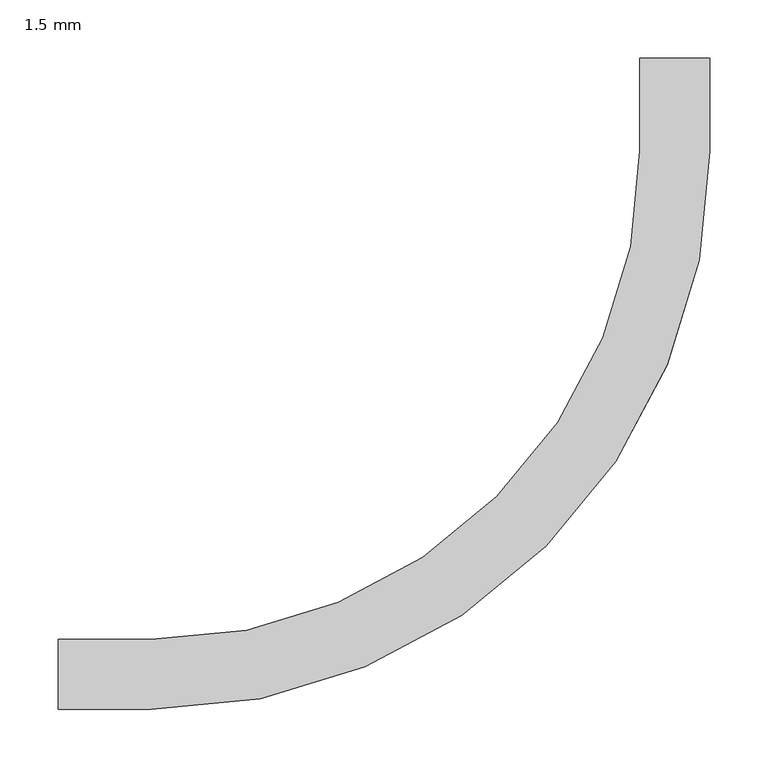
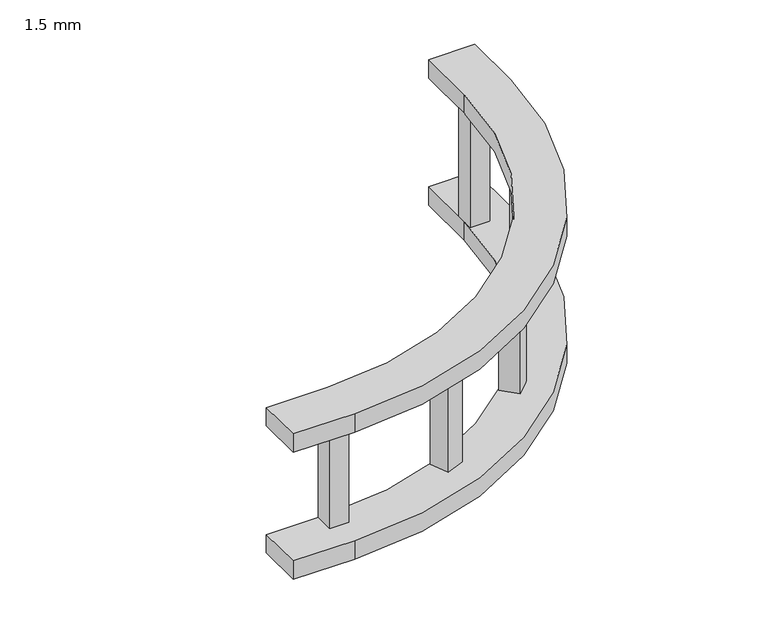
"""IFC4 building model written with IfcOpenShell, lengths in millimetres: cable carrier fitting geometry, BAKS_Łuk_pionowy_drabiny_zew E90 : 1.5 mm."""

from ifc_helpers import new_model, si_unit, point, frame, frame_2d, origin, place, context, project, spatial, polyline, circle_curve, trimmed, segment, composite_curve, outline, extrude, source, transform, mapped, element, save


def cable_carrier_fitting_1_5_mm_cc8ef015(model_context):
    return source(origin(), model_context, "Body", "SweptSolid", [
        extrude(outline(polyline([(-57.1105168, 301.0062285), (-33.6439766, 291.2860693), (-43.3641358, 267.8195292), (-66.8306759, 277.5396883), (-57.1105168, 301.0062285)])), frame((0.0, 0.0, -74.6), z_axis=(0.0, 0.0, 1.0), x_axis=(1.0, 0.0, 0.0)), (0.0, 0.0, 1.0), 149.2),
        extrude(outline(polyline([(-277.5396883, 66.8306759), (-267.8195292, 43.3641358), (-291.2860693, 33.6439766), (-301.0062285, 57.1105168), (-277.5396883, 66.8306759)])), frame((0.0, 0.0, -74.6), z_axis=(0.0, 0.0, 1.0), x_axis=(1.0, 0.0, 0.0)), (0.0, 0.0, 1.0), 149.2),
        extrude(outline(polyline([(-30.0, 462.7), (-4.6, 462.7), (-4.6, 437.3), (-30.0, 437.3), (-30.0, 462.7)])), frame((0.0, 0.0, -74.6), z_axis=(0.0, 0.0, 1.0), x_axis=(1.0, 0.0, 0.0)), (0.0, 0.0, 1.0), 149.2),
        extrude(outline(polyline([(-144.0348958, 161.995408), (-126.0743835, 144.0348958), (-144.0348958, 126.0743835), (-161.995408, 144.0348958), (-144.0348958, 161.995408)])), frame((0.0, 0.0, -74.6), z_axis=(0.0, 0.0, 1.0), x_axis=(1.0, 0.0, 0.0)), (0.0, 0.0, 1.0), 149.2),
        extrude(outline(polyline([(-462.7, 4.6), (-462.7, 30.0), (-437.3, 30.0), (-437.3, 4.6), (-462.7, 4.6)])), frame((0.0, 0.0, -74.6), z_axis=(0.0, 0.0, 1.0), x_axis=(1.0, 0.0, 0.0)), (0.0, 0.0, 1.0), 149.2),
        extrude(outline(composite_curve([segment(polyline([(-530.0, -30.0), (-530.0, 30.0), (-450.0, 30.0)]), True, "CONTINUOUS"), segment(trimmed(circle_curve(frame_2d((-450.0, 450.0)), 420.0), [point((-450.0, 30.0))], [point((-30.0, 450.0))], True, "CARTESIAN"), True, "CONTINUOUS"), segment(polyline([(-30.0, 450.0), (-30.0, 530.0), (30.0, 530.0), (30.0, 450.0)]), True, "CONTINUOUS"), segment(trimmed(circle_curve(frame_2d((-450.0, 450.0)), 480.0), [point((30.0, 450.0))], [point((-450.0, -30.0))], False, "CARTESIAN"), True, "CONTINUOUS"), segment(polyline([(-450.0, -30.0), (-530.0, -30.0)]), True, "CONTINUOUS")], self_intersect=False)), frame((0.0, 0.0, 74.6), z_axis=(0.0, 0.0, 1.0), x_axis=(1.0, 0.0, 0.0)), (0.0, 0.0, 1.0), 25.4),
        extrude(outline(composite_curve([segment(polyline([(-530.0, -30.0), (-530.0, 30.0), (-450.0, 30.0)]), True, "CONTINUOUS"), segment(trimmed(circle_curve(frame_2d((-450.0, 450.0)), 420.0), [point((-450.0, 30.0))], [point((-30.0, 450.0))], True, "CARTESIAN"), True, "CONTINUOUS"), segment(polyline([(-30.0, 450.0), (-30.0, 530.0), (30.0, 530.0), (30.0, 450.0)]), True, "CONTINUOUS"), segment(trimmed(circle_curve(frame_2d((-450.0, 450.0)), 480.0), [point((30.0, 450.0))], [point((-450.0, -30.0))], False, "CARTESIAN"), True, "CONTINUOUS"), segment(polyline([(-450.0, -30.0), (-530.0, -30.0)]), True, "CONTINUOUS")], self_intersect=False)), frame((0.0, 0.0, -100.0), z_axis=(0.0, 0.0, 1.0), x_axis=(1.0, 0.0, 0.0)), (0.0, 0.0, 1.0), 25.4),
    ])


if __name__ == "__main__":
    model = new_model("IFC4")
    model_context = context("Model", 3, world=origin())
    ifc_project = project(units=[si_unit("LENGTHUNIT", "METRE", prefix="MILLI")], contexts=[model_context])
    site = spatial("IfcSite", under=ifc_project)
    building = spatial("IfcBuilding", under=site)
    placement = place(None, origin())
    cable_carrier_fitting_1_5_mm_shape = cable_carrier_fitting_1_5_mm_cc8ef015(model_context)
    element("IfcCableCarrierFitting", 1, ObjectType="BAKS_Łuk_pionowy_drabiny_zew E90 : 1.5 mm", at=placement, inside=building, context=model_context, shape_type="MappedRepresentation", body=[
        mapped(cable_carrier_fitting_1_5_mm_shape, transform((0.0, 0.0, 0.0), x_axis=(1.0, 0.0, 0.0), y_axis=(0.0, 1.0, 0.0), z_axis=(0.0, 0.0, 1.0))),
    ])
    save(model, "model.ifc")
